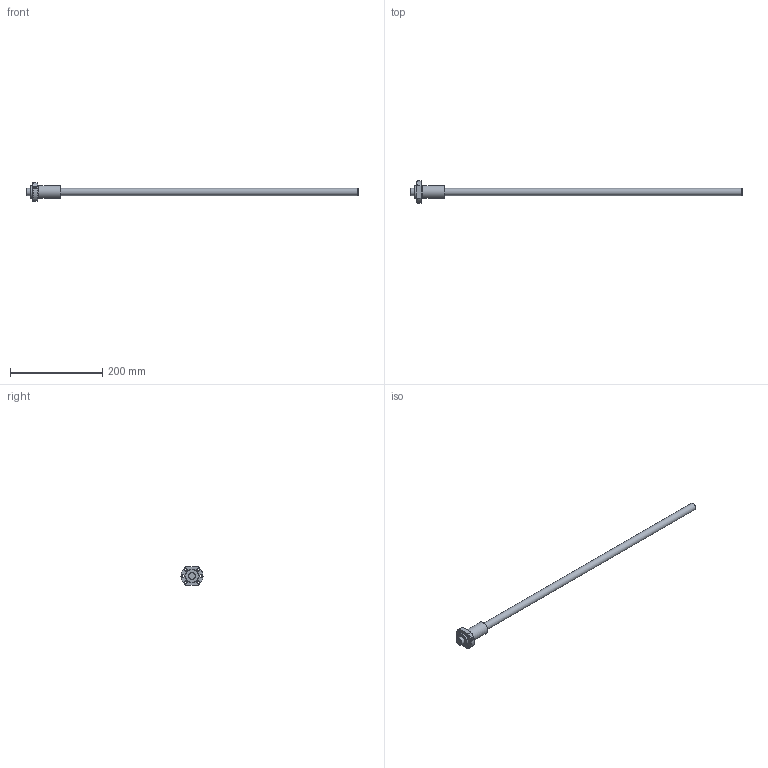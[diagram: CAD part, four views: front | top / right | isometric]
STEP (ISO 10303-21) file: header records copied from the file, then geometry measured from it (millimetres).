
FILE_DESCRIPTION(/* description */ ('STEP AP214'),/* implementation_level */ '2;1');
FILE_NAME(/* name */ 'EPB1605-6RRG0+720LC1(635G000)_rev',/* time_stamp */ '2023-08-03T13:23:14+02:00',/* author */ ('License CC BY-ND 4.0'),/* organization */ ('CADENAS'),/* preprocessor_version */ 'ST-DEVELOPER v19.3',/* originating_system */ 'PARTsolutions',/* authorisation */ ' ');
FILE_SCHEMA (('AUTOMOTIVE_DESIGN {1 0 10303 214 3 1 1}'));
Length unit declared in the file: millimetre
Products named in the file (3): EPB1605-6RRG0+720LC1(635G000)_rev; EPB 1605-6RR Nut1; EPB 1605-66350 Shaft1
Assembly tree (2 placements, depth 2):
  EPB1605-6RRG0+720LC1(635G000)_rev
    EPB 1605-6RR Nut1
    EPB 1605-66350 Shaft1
Bounding box: 720 x 48 x 40 mm (x, y, z)
Volume: 180158.8 mm3; surface area: 49999.5 mm2
Topology: 2 solids, 2 shells, 32 faces, 72 edges, 47 vertices
Faces by surface type: cylinder 14, cone 9, plane 9
Full cylindrical faces by diameter (mm): 4.917 x1, 5.5 x6, 16 x2, 26.32 x1, 28 x2
Entity records: 935 total; most frequent: CARTESIAN_POINT 177, DIRECTION 148, ORIENTED_EDGE 106, AXIS2_PLACEMENT_3D 70, EDGE_LOOP 68, FACE_BOUND 68, EDGE_CURVE 53, VERTEX_POINT 45
